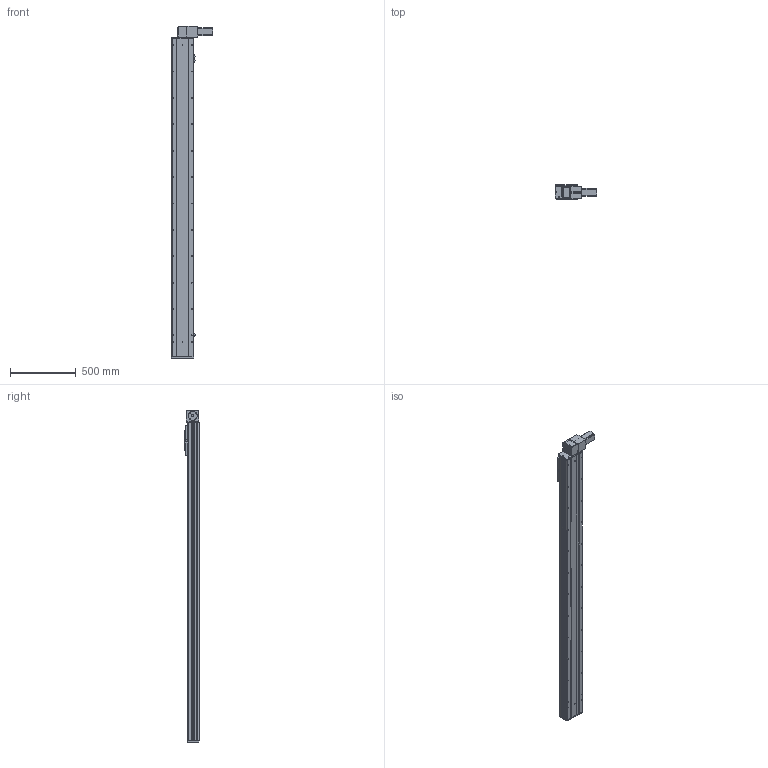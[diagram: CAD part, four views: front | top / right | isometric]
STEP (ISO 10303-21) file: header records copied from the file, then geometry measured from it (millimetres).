
FILE_DESCRIPTION (( 'STEP AP203' ), '1' );
FILE_NAME ('Y170CB-D105-S2100-BD-P400W.STEP', '2020-02-20T09:01:56', ( '微软用户' ), ( '微软中国' ), 'SwSTEP 2.0', 'SolidWorks 2017', '' );
FILE_SCHEMA (( 'CONFIG_CONTROL_DESIGN' ));
Length unit declared in the file: millimetre
Products named in the file (16): 70CB-詩湍--; san松下电机400不带刹车----; Y100-135俋离換覜ん--; 70CB-掛极-; Y170CB-陔俋离換覜結え---; --70CB --喘謫眊楊擘啣-; 70CB-耜裔啣-; 70C--詩湍揤踡え-; 70CB--耜裔; Y1埴倛裔; 70C-雄赽釱-奻-; 70B喘謫眊----; 0C--雄赽釱俋欶-170; B-源倛裔啣; 0B薊粣ん眊-400W--; Y170CB-D105-S2100-BD-P400W
Assembly tree (19 placements, depth 2):
  Y170CB-D105-S2100-BD-P400W
    B-源倛裔啣
    san松下电机400不带刹车----
    70CB-掛极-
    --70CB --喘謫眊楊擘啣-
    70CB-耜裔啣-  x2
    70C--詩湍揤踡え-  x2
    70CB--耜裔
    70C-雄赽釱-奻-
    0C--雄赽釱俋欶-170
    70CB-詩湍--
    Y100-135俋离換覜ん--  x3
    Y170CB-陔俋离換覜結え---
    Y1埴倛裔
    70B喘謫眊----
    0B薊粣ん眊-400W--
Bounding box: 313.5 x 107 x 2516 mm (x, y, z)
Volume: 11157302.9 mm3; surface area: 3893059.8 mm2
Topology: 19 solids, 19 shells, 968 faces, 2570 edges, 1704 vertices
Faces by surface type: cylinder 522, plane 422, cone 24
Entity records: 30471 total; most frequent: CARTESIAN_POINT 5686, DIRECTION 4959, ORIENTED_EDGE 4622, EDGE_CURVE 2311, AXIS2_PLACEMENT_3D 1841, VERTEX_POINT 1534, LINE 1277, VECTOR 1277
